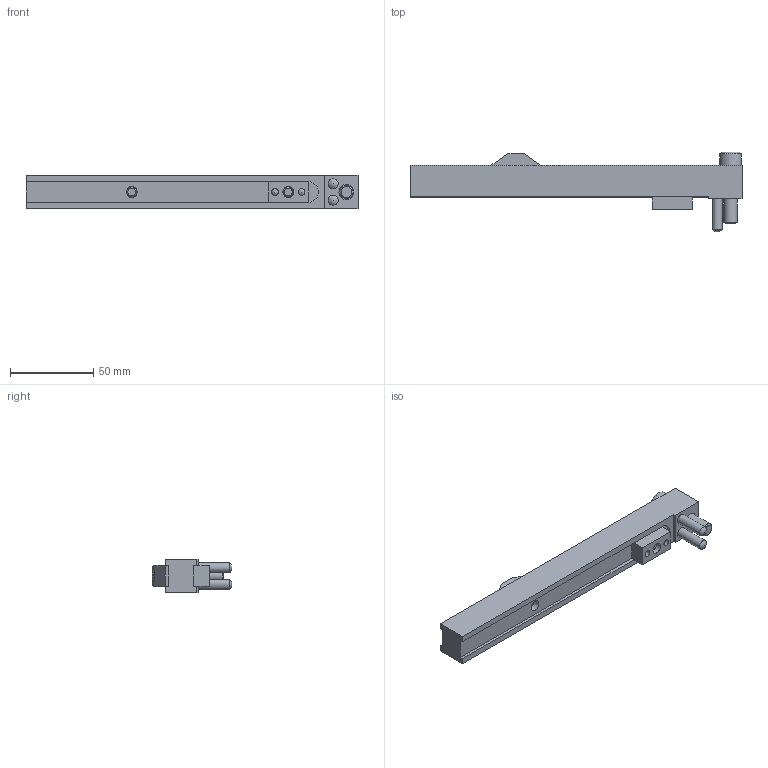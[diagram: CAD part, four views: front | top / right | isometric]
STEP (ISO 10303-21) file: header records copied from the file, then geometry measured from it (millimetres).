
FILE_DESCRIPTION(/* description */ ('STEP AP214'),/* implementation_level */ '2;1');
FILE_NAME(/* name */ 'KU12200',/* time_stamp */ '2024-12-02T11:10:51+01:00',/* author */ ('License CC BY-ND 4.0'),/* organization */ ('CADENAS'),/* preprocessor_version */ 'ST-DEVELOPER v19.3',/* originating_system */ 'PARTsolutions',/* authorisation */ ' ');
FILE_SCHEMA (('AUTOMOTIVE_DESIGN {1 0 10303 214 3 1 1}'));
Length unit declared in the file: millimetre
Products named in the file (10): KU12200; KU1220010; KU1220011; KU1220012; KU1220013; KU1220014; KU1220015; KU1220016; KU122008; KU122009
Assembly tree (10 placements, depth 2):
  KU12200
    KU1220010
    KU1220011
    KU1220012
    KU1220013
    KU1220014
    KU1220015
    KU1220016
    KU122008  x2
    KU122009
Bounding box: 200 x 48 x 20 mm (x, y, z)
Volume: 74580.8 mm3; surface area: 27588.3 mm2
Topology: 10 solids, 10 shells, 100 faces, 246 edges, 163 vertices
Faces by surface type: plane 61, cylinder 24, sphere 8, cone 7
Full cylindrical faces by diameter (mm): 4 x6, 6 x6, 6.6 x4, 8 x1, 9 x1, 10 x1, 11 x2, 13 x1
Entity records: 2823 total; most frequent: DIRECTION 456, CARTESIAN_POINT 438, ORIENTED_EDGE 370, EDGE_CURVE 185, AXIS2_PLACEMENT_3D 165, EDGE_LOOP 152, FACE_BOUND 152, VERTEX_POINT 139
